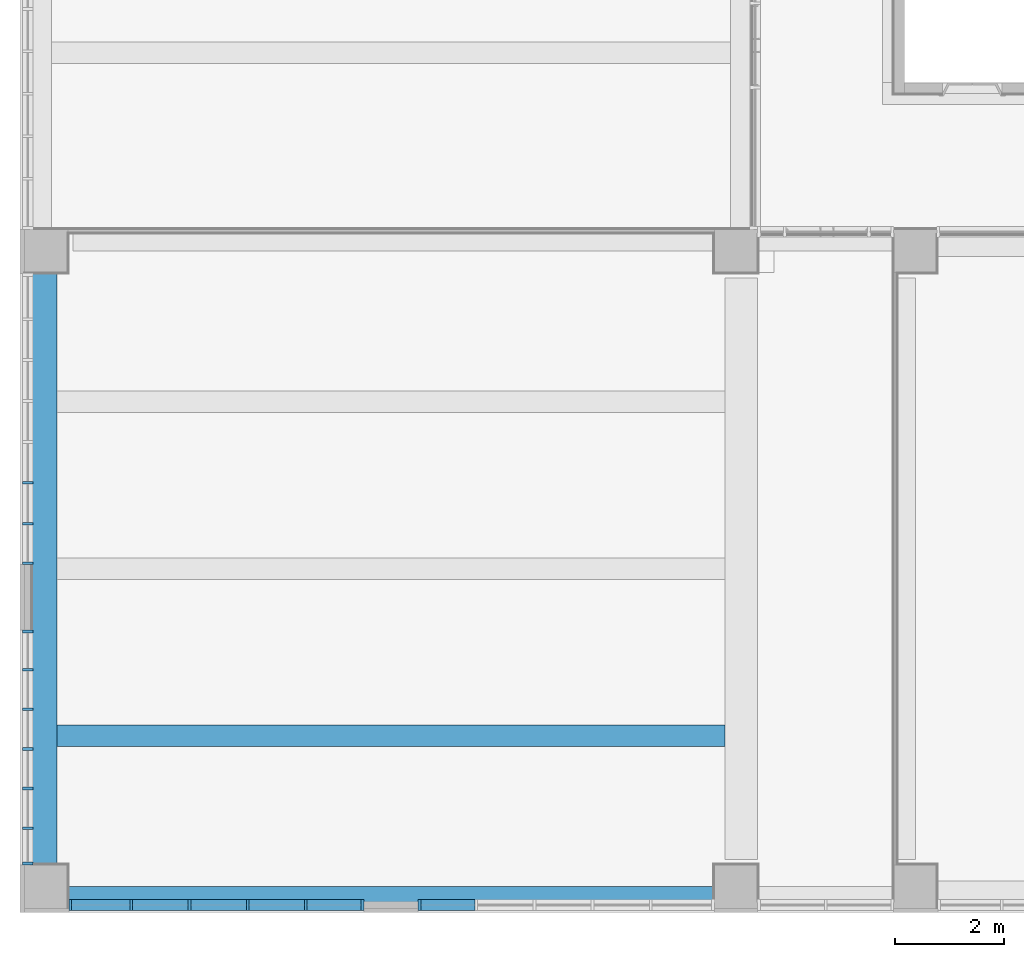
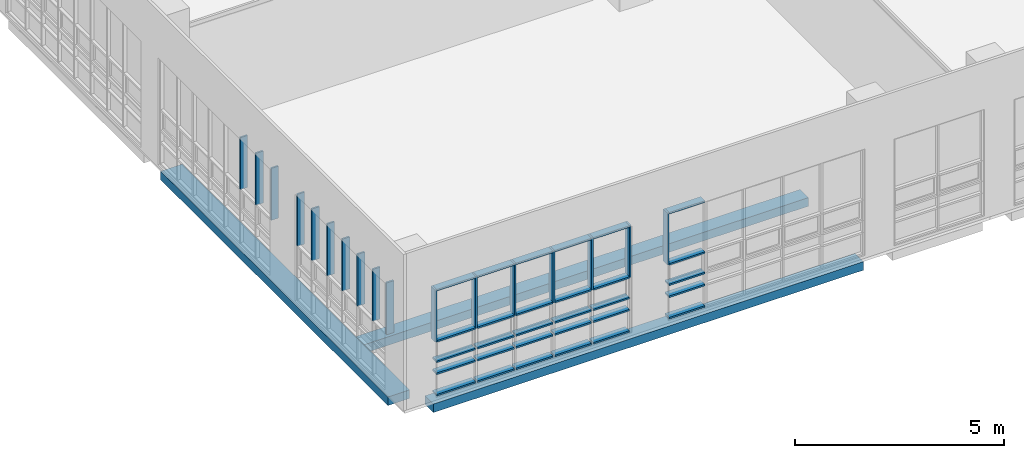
# One storey, part 2 of 74: 47 members, 3 beams, 4 elements without a shape of their own.
"""IFC2X3 building model written with IfcOpenShell, lengths in millimetres."""

from ifc_helpers import new_model, entity, si_unit, converted_unit, derived_unit, direction, frame, frame_2d, origin, origin_2d_with_axis, place, context, subcontext, project, spatial, rectangle, extrude, source, transform, mapped, material, type_object, type_shapes, element, aggregate, save


model = new_model("IFC2X3")

# Units and contexts
model_context = context("Model", 3, precision=0.01, world=origin(), true_north=direction((6.123031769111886e-17, 1.0)))
body_context = subcontext(model_context, "Body", "Model", "MODEL_VIEW")
ifc_project = project(units=[si_unit("LENGTHUNIT", "METRE", prefix="MILLI"), si_unit("AREAUNIT", "SQUARE_METRE"), si_unit("VOLUMEUNIT", "CUBIC_METRE"), converted_unit("PLANEANGLEUNIT", "DEGREE", entity("IfcRatioMeasure", 0.017453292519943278), si_unit("PLANEANGLEUNIT", "RADIAN"), dimensions=[0, 0, 0, 0, 0, 0, 0]), si_unit("MASSUNIT", "GRAM", prefix="KILO"), derived_unit("MASSDENSITYUNIT", [(si_unit("MASSUNIT", "GRAM", prefix="KILO"), 1), (si_unit("LENGTHUNIT", "METRE"), -3)]), derived_unit("MOMENTOFINERTIAUNIT", [(si_unit("LENGTHUNIT", "METRE"), 4)]), si_unit("TIMEUNIT", "SECOND"), si_unit("FREQUENCYUNIT", "HERTZ"), si_unit("THERMODYNAMICTEMPERATUREUNIT", "DEGREE_CELSIUS"), derived_unit("THERMALTRANSMITTANCEUNIT", [(si_unit("MASSUNIT", "GRAM", prefix="KILO"), 1), (si_unit("THERMODYNAMICTEMPERATUREUNIT", "KELVIN"), -1), (si_unit("TIMEUNIT", "SECOND"), -3)]), derived_unit("VOLUMETRICFLOWRATEUNIT", [(si_unit("LENGTHUNIT", "METRE"), 3), (si_unit("TIMEUNIT", "SECOND"), -1)]), derived_unit("MASSFLOWRATEUNIT", [(si_unit("MASSUNIT", "GRAM", prefix="KILO"), 1), (si_unit("TIMEUNIT", "SECOND"), -1)]), derived_unit("ROTATIONALFREQUENCYUNIT", [(si_unit("TIMEUNIT", "SECOND"), -1)]), si_unit("ELECTRICCURRENTUNIT", "AMPERE"), si_unit("ELECTRICVOLTAGEUNIT", "VOLT"), si_unit("POWERUNIT", "WATT"), si_unit("FORCEUNIT", "NEWTON", prefix="KILO"), si_unit("ILLUMINANCEUNIT", "LUX"), si_unit("LUMINOUSFLUXUNIT", "LUMEN"), si_unit("LUMINOUSINTENSITYUNIT", "CANDELA"), derived_unit("USERDEFINED", [(si_unit("MASSUNIT", "GRAM", prefix="KILO"), -1), (si_unit("LENGTHUNIT", "METRE"), -2), (si_unit("TIMEUNIT", "SECOND"), 3), (si_unit("LUMINOUSFLUXUNIT", "LUMEN"), 1)]), derived_unit("SOUNDPOWERUNIT", [(si_unit("MASSUNIT", "GRAM", prefix="KILO"), 1), (si_unit("LENGTHUNIT", "METRE"), 2), (si_unit("TIMEUNIT", "SECOND"), -3)]), derived_unit("SOUNDPRESSUREUNIT", [(si_unit("MASSUNIT", "GRAM", prefix="KILO"), 1), (si_unit("LENGTHUNIT", "METRE"), -1), (si_unit("TIMEUNIT", "SECOND"), -2)]), derived_unit("LINEARVELOCITYUNIT", [(si_unit("LENGTHUNIT", "METRE"), 1), (si_unit("TIMEUNIT", "SECOND"), -1)]), si_unit("PRESSUREUNIT", "PASCAL"), derived_unit("USERDEFINED", [(si_unit("LENGTHUNIT", "METRE"), -2), (si_unit("MASSUNIT", "GRAM", prefix="KILO"), 1), (si_unit("TIMEUNIT", "SECOND"), -2)]), derived_unit("LINEARFORCEUNIT", [(si_unit("MASSUNIT", "GRAM", prefix="KILO"), 1), (si_unit("LENGTHUNIT", "METRE"), 1), (si_unit("TIMEUNIT", "SECOND"), -2), (si_unit("LENGTHUNIT", "METRE"), -1)]), derived_unit("PLANARFORCEUNIT", [(si_unit("MASSUNIT", "GRAM", prefix="KILO"), 1), (si_unit("LENGTHUNIT", "METRE"), 1), (si_unit("TIMEUNIT", "SECOND"), -2), (si_unit("LENGTHUNIT", "METRE"), -2)])], contexts=[model_context])

# Site, building, storey
site_placement = place(None, frame((-14167.972527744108, -657.2125860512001, 0.0)))
site = spatial("IfcSite", under=ifc_project, at=site_placement, Name="Default", CompositionType="ELEMENT")
building_placement = place(site_placement, origin())
building = spatial("IfcBuilding", under=site, at=building_placement, Name="Sample Building", CompositionType="ELEMENT")
storey_placement = place(building_placement, frame((0.0, 0.0, 4800.0)))
storey = spatial("IfcBuildingStorey", under=building, at=storey_placement, Name="지상 2층", CompositionType="ELEMENT", Elevation=4800.000000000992)

# Curtain wall, member
curtain_wall_type = type_object("IfcCurtainWallType", Name="커튼월:CW112-스테인리스 스틸 커튼월", PredefinedType="NOTDEFINED")
curtain_wall_1_placement = place(storey_placement, frame((0.0, 0.0, -4800.0)))
curtain_wall_1 = element("IfcCurtainWall", 1, at=curtain_wall_1_placement, inside=storey, type_object=curtain_wall_type, Name="커튼월:CW112-스테인리스 스틸 커튼월", ObjectType="커튼월:CW112-스테인리스 스틸 커튼월")
ifc_material_1 = material(Name="<Unnamed>")
member_type_1 = type_object("IfcMemberType", Name="직사각형 멀리언:CW200-직사각형 멀리언 50x200mm", PredefinedType="MULLION", material=ifc_material_1)
shared_shape_1 = source(origin(), body_context, "Body", "SweptSolid", [
    extrude(rectangle(XDim=200.0, YDim=50.0, at=origin_2d_with_axis()), frame((-25.0, 0.0, -1520.0), z_axis=(0.0, 0.0, 1.0), x_axis=(0.0, -1.0, 0.0)), (0.0, 0.0, 1.0), 1520.0000000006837),
])
type_shapes(member_type_1, [shared_shape_1])
member_1_placement = place(curtain_wall_1_placement, frame((14885.972454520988, 619.7122951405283, 8000.0), z_axis=(0.0, 0.0, 1.0), x_axis=(-1.0, 0.0, 0.0)))
member_1 = element("IfcMember", 2, at=member_1_placement, type_object=member_type_1, material=ifc_material_1, Name="직사각형 멀리언:CW200-직사각형 멀리언 50x200mm", ObjectType="직사각형 멀리언:CW200-직사각형 멀리언 50x200mm", context=body_context, shape_type="MappedRepresentation", body=[
    mapped(shared_shape_1, transform((0.0, 0.0, 0.0), scale=1.0)),
])

curtain_wall_2_placement = place(storey_placement, frame((0.0, 0.0, -4800.0)))
curtain_wall_2 = element("IfcCurtainWall", 3, at=curtain_wall_2_placement, inside=storey, type_object=curtain_wall_type, Name="커튼월:CW112-스테인리스 스틸 커튼월", ObjectType="커튼월:CW112-스테인리스 스틸 커튼월")
member_2_placement = place(curtain_wall_2_placement, frame((21317.857532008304, 619.7122951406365, 8000.0), z_axis=(0.0, 0.0, 1.0), x_axis=(-1.0, 0.0, 0.0)))
member_2 = element("IfcMember", 4, at=member_2_placement, type_object=member_type_1, material=ifc_material_1, Name="직사각형 멀리언:CW200-직사각형 멀리언 50x200mm", ObjectType="직사각형 멀리언:CW200-직사각형 멀리언 50x200mm", context=body_context, shape_type="MappedRepresentation", body=[
    mapped(shared_shape_1, transform((0.0, 0.0, 0.0), scale=1.0)),
])

curtain_wall_3_placement = place(storey_placement, frame((0.0, 0.0, -4800.0)))
curtain_wall_3 = element("IfcCurtainWall", 5, at=curtain_wall_3_placement, inside=storey, type_object=curtain_wall_type, Name="커튼월:CW112-스테인리스 스틸 커튼월", ObjectType="커튼월:CW112-스테인리스 스틸 커튼월")
member_type_2 = type_object("IfcMemberType", Name="직사각형 멀리언:CW200-직사각형 멀리언 50x200mm", PredefinedType="MULLION", material=ifc_material_1)
shared_shape_2 = source(origin(), body_context, "Body", "SweptSolid", [
    extrude(rectangle(XDim=200.0, YDim=50.0, at=origin_2d_with_axis()), frame((-25.0, 0.0, -1520.0), z_axis=(0.0, 0.0, 1.0), x_axis=(0.0, -1.0, 0.0)), (0.0, 0.0, 1.0), 1520.0000000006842),
])
type_shapes(member_type_2, [shared_shape_2])
member_3_placement = place(curtain_wall_3_placement, frame((14130.47257087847, 6882.21227524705, 6480.0), z_axis=(0.0, 0.0, -1.0), x_axis=(0.0, -1.0, 0.0)))
member_3 = element("IfcMember", 6, at=member_3_placement, type_object=member_type_2, material=ifc_material_1, Name="직사각형 멀리언:CW200-직사각형 멀리언 50x200mm", ObjectType="직사각형 멀리언:CW200-직사각형 멀리언 50x200mm", context=body_context, shape_type="MappedRepresentation", body=[
    mapped(shared_shape_2, transform((0.0, 0.0, 0.0), scale=1.0)),
])

# Member
member_4_placement = place(curtain_wall_1_placement, frame((20317.99848593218, 619.7122951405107, 6480.0), z_axis=(0.0, 0.0, -1.0), x_axis=(1.0, 0.0, 0.0)))
member_4 = element("IfcMember", 7, at=member_4_placement, type_object=member_type_2, material=ifc_material_1, Name="직사각형 멀리언:CW200-직사각형 멀리언 50x200mm", ObjectType="직사각형 멀리언:CW200-직사각형 멀리언 50x200mm", context=body_context, shape_type="MappedRepresentation", body=[
    mapped(shared_shape_2, transform((0.0, 0.0, 0.0), scale=1.0)),
])

member_type_3 = type_object("IfcMemberType", Name="직사각형 멀리언:CW200-직사각형 멀리언 50x200mm", PredefinedType="MULLION", material=ifc_material_1)
shared_shape_3 = source(origin(), body_context, "Body", "SweptSolid", [
    extrude(rectangle(XDim=200.0, YDim=50.0, at=origin_2d_with_axis()), frame((0.0, 0.0, -1520.0), z_axis=(0.0, 0.0, 1.0), x_axis=(0.0, -1.0, 0.0)), (0.0, 0.0, 1.0), 1520.0000000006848),
])
type_shapes(member_type_3, [shared_shape_3])
member_5_placement = place(curtain_wall_3_placement, frame((14130.472570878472, 8389.35513238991, 6480.0), z_axis=(0.0, 0.0, -1.0), x_axis=(0.0, -1.0, 0.0)))
member_5 = element("IfcMember", 8, at=member_5_placement, type_object=member_type_3, material=ifc_material_1, Name="직사각형 멀리언:CW200-직사각형 멀리언 50x200mm", ObjectType="직사각형 멀리언:CW200-직사각형 멀리언 50x200mm", context=body_context, shape_type="MappedRepresentation", body=[
    mapped(shared_shape_3, transform((0.0, 0.0, 0.0), scale=1.0)),
])

member_6_placement = place(curtain_wall_3_placement, frame((14130.472570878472, 7635.783703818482, 6480.0), z_axis=(0.0, 0.0, -1.0), x_axis=(0.0, -1.0, 0.0)))
member_6 = element("IfcMember", 9, at=member_6_placement, type_object=member_type_3, material=ifc_material_1, Name="직사각형 멀리언:CW200-직사각형 멀리언 50x200mm", ObjectType="직사각형 멀리언:CW200-직사각형 멀리언 50x200mm", context=body_context, shape_type="MappedRepresentation", body=[
    mapped(shared_shape_3, transform((0.0, 0.0, 0.0), scale=1.0)),
])

aggregate(curtain_wall_3, [member_3, member_5, member_6])

member_7_placement = place(curtain_wall_1_placement, frame((16037.998485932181, 619.7122951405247, 6480.0), z_axis=(0.0, 0.0, -1.0), x_axis=(1.0, 0.0, 0.0)))
member_7 = element("IfcMember", 10, at=member_7_placement, type_object=member_type_3, material=ifc_material_1, Name="직사각형 멀리언:CW200-직사각형 멀리언 50x200mm", ObjectType="직사각형 멀리언:CW200-직사각형 멀리언 50x200mm", context=body_context, shape_type="MappedRepresentation", body=[
    mapped(shared_shape_3, transform((0.0, 0.0, 0.0), scale=1.0)),
])

member_8_placement = place(curtain_wall_1_placement, frame((17107.99848593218, 619.7122951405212, 6480.0), z_axis=(0.0, 0.0, -1.0), x_axis=(1.0, 0.0, 0.0)))
member_8 = element("IfcMember", 11, at=member_8_placement, type_object=member_type_3, material=ifc_material_1, Name="직사각형 멀리언:CW200-직사각형 멀리언 50x200mm", ObjectType="직사각형 멀리언:CW200-직사각형 멀리언 50x200mm", context=body_context, shape_type="MappedRepresentation", body=[
    mapped(shared_shape_3, transform((0.0, 0.0, 0.0), scale=1.0)),
])

member_9_placement = place(curtain_wall_1_placement, frame((18177.99848593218, 619.7122951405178, 6480.0), z_axis=(0.0, 0.0, -1.0), x_axis=(1.0, 0.0, 0.0)))
member_9 = element("IfcMember", 12, at=member_9_placement, type_object=member_type_3, material=ifc_material_1, Name="직사각형 멀리언:CW200-직사각형 멀리언 50x200mm", ObjectType="직사각형 멀리언:CW200-직사각형 멀리언 50x200mm", context=body_context, shape_type="MappedRepresentation", body=[
    mapped(shared_shape_3, transform((0.0, 0.0, 0.0), scale=1.0)),
])

member_10_placement = place(curtain_wall_1_placement, frame((19247.99848593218, 619.7122951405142, 6480.0), z_axis=(0.0, 0.0, -1.0), x_axis=(1.0, 0.0, 0.0)))
member_10 = element("IfcMember", 13, at=member_10_placement, type_object=member_type_3, material=ifc_material_1, Name="직사각형 멀리언:CW200-직사각형 멀리언 50x200mm", ObjectType="직사각형 멀리언:CW200-직사각형 멀리언 50x200mm", context=body_context, shape_type="MappedRepresentation", body=[
    mapped(shared_shape_3, transform((0.0, 0.0, 0.0), scale=1.0)),
])

# Curtain wall, members
curtain_wall_4_placement = place(storey_placement, frame((0.0, 0.0, -4800.0)))
curtain_wall_4 = element("IfcCurtainWall", 14, at=curtain_wall_4_placement, inside=storey, type_object=curtain_wall_type, Name="커튼월:CW112-스테인리스 스틸 커튼월", ObjectType="커튼월:CW112-스테인리스 스틸 커튼월")
member_type_4 = type_object("IfcMemberType", Name="직사각형 멀리언:CW200-직사각형 멀리언 50x200mm", PredefinedType="MULLION", material=ifc_material_1)
shared_shape_4 = source(origin(), body_context, "Body", "SweptSolid", [
    extrude(rectangle(XDim=200.0, YDim=50.0, at=origin_2d_with_axis()), frame((-25.0, 0.0, -1520.0), z_axis=(0.0, 0.0, 1.0), x_axis=(0.0, -1.0, 0.0)), (0.0, 0.0, 1.0), 1520.000000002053),
])
type_shapes(member_type_4, [shared_shape_4])
member_11_placement = place(curtain_wall_4_placement, frame((14129.839654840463, 5679.474664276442, 8000.0), z_axis=(0.0, 0.0, 1.0), x_axis=(0.0, 1.0, 0.0)))
member_11 = element("IfcMember", 15, at=member_11_placement, type_object=member_type_4, material=ifc_material_1, Name="직사각형 멀리언:CW200-직사각형 멀리언 50x200mm", ObjectType="직사각형 멀리언:CW200-직사각형 멀리언 50x200mm", context=body_context, shape_type="MappedRepresentation", body=[
    mapped(shared_shape_4, transform((0.0, 0.0, 0.0), scale=1.0)),
])
member_type_5 = type_object("IfcMemberType", Name="직사각형 멀리언:CW200-직사각형 멀리언 50x200mm", PredefinedType="MULLION", material=ifc_material_1)
shared_shape_5 = source(origin(), body_context, "Body", "SweptSolid", [
    extrude(rectangle(XDim=200.0, YDim=50.0, at=origin_2d_with_axis()), frame((-25.0, 0.0, -1520.0), z_axis=(0.0, 0.0, 1.0), x_axis=(0.0, -1.0, 0.0)), (0.0, 0.0, 1.0), 1520.000000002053),
])
type_shapes(member_type_5, [shared_shape_5])
member_12_placement = place(curtain_wall_4_placement, frame((14129.839654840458, 1356.728296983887, 6480.0), z_axis=(0.0, 0.0, -1.0), x_axis=(0.0, -1.0, 0.0)))
member_12 = element("IfcMember", 16, at=member_12_placement, type_object=member_type_5, material=ifc_material_1, Name="직사각형 멀리언:CW200-직사각형 멀리언 50x200mm", ObjectType="직사각형 멀리언:CW200-직사각형 멀리언 50x200mm", context=body_context, shape_type="MappedRepresentation", body=[
    mapped(shared_shape_5, transform((0.0, 0.0, 0.0), scale=1.0)),
])
member_type_6 = type_object("IfcMemberType", Name="직사각형 멀리언:CW200-직사각형 멀리언 50x200mm", PredefinedType="MULLION", material=ifc_material_1)
shared_shape_6 = source(origin(), body_context, "Body", "SweptSolid", [
    extrude(rectangle(XDim=200.0, YDim=50.0, at=origin_2d_with_axis()), frame((0.0, 0.0, -1520.0), z_axis=(0.0, 0.0, 1.0), x_axis=(0.0, -1.0, 0.0)), (0.0, 0.0, 1.0), 1520.000000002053),
])
type_shapes(member_type_6, [shared_shape_6])
member_13_placement = place(curtain_wall_4_placement, frame((14129.839654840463, 4950.307997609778, 6480.0), z_axis=(0.0, 0.0, -1.0), x_axis=(0.0, -1.0, 0.0)))
member_13 = element("IfcMember", 17, at=member_13_placement, type_object=member_type_6, material=ifc_material_1, Name="직사각형 멀리언:CW200-직사각형 멀리언 50x200mm", ObjectType="직사각형 멀리언:CW200-직사각형 멀리언 50x200mm", context=body_context, shape_type="MappedRepresentation", body=[
    mapped(shared_shape_6, transform((0.0, 0.0, 0.0), scale=1.0)),
])
member_14_placement = place(curtain_wall_4_placement, frame((14129.839654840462, 4221.141330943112, 6480.0), z_axis=(0.0, 0.0, -1.0), x_axis=(0.0, -1.0, 0.0)))
member_14 = element("IfcMember", 18, at=member_14_placement, type_object=member_type_6, material=ifc_material_1, Name="직사각형 멀리언:CW200-직사각형 멀리언 50x200mm", ObjectType="직사각형 멀리언:CW200-직사각형 멀리언 50x200mm", context=body_context, shape_type="MappedRepresentation", body=[
    mapped(shared_shape_6, transform((0.0, 0.0, 0.0), scale=1.0)),
])
member_15_placement = place(curtain_wall_4_placement, frame((14129.83965484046, 3491.974664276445, 6480.0), z_axis=(0.0, 0.0, -1.0), x_axis=(0.0, -1.0, 0.0)))
member_15 = element("IfcMember", 19, at=member_15_placement, type_object=member_type_6, material=ifc_material_1, Name="직사각형 멀리언:CW200-직사각형 멀리언 50x200mm", ObjectType="직사각형 멀리언:CW200-직사각형 멀리언 50x200mm", context=body_context, shape_type="MappedRepresentation", body=[
    mapped(shared_shape_6, transform((0.0, 0.0, 0.0), scale=1.0)),
])
member_16_placement = place(curtain_wall_4_placement, frame((14129.83965484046, 2762.8079976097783, 6480.0), z_axis=(0.0, 0.0, -1.0), x_axis=(0.0, -1.0, 0.0)))
member_16 = element("IfcMember", 20, at=member_16_placement, type_object=member_type_6, material=ifc_material_1, Name="직사각형 멀리언:CW200-직사각형 멀리언 50x200mm", ObjectType="직사각형 멀리언:CW200-직사각형 멀리언 50x200mm", context=body_context, shape_type="MappedRepresentation", body=[
    mapped(shared_shape_6, transform((0.0, 0.0, 0.0), scale=1.0)),
])
member_17_placement = place(curtain_wall_4_placement, frame((14129.839654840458, 2033.6413309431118, 6480.0), z_axis=(0.0, 0.0, -1.0), x_axis=(0.0, -1.0, 0.0)))
member_17 = element("IfcMember", 21, at=member_17_placement, type_object=member_type_6, material=ifc_material_1, Name="직사각형 멀리언:CW200-직사각형 멀리언 50x200mm", ObjectType="직사각형 멀리언:CW200-직사각형 멀리언 50x200mm", context=body_context, shape_type="MappedRepresentation", body=[
    mapped(shared_shape_6, transform((0.0, 0.0, 0.0), scale=1.0)),
])
aggregate(curtain_wall_4, [member_11, member_12, member_13, member_14, member_15, member_16, member_17])

# Member
member_type_7 = type_object("IfcMemberType", Name="직사각형 멀리언:CW200-직사각형 멀리언 50x200mm", PredefinedType="MULLION", material=ifc_material_1)
shared_shape_7 = source(origin(), body_context, "Body", "SweptSolid", [
    extrude(rectangle(XDim=200.0, YDim=50.0, at=origin_2d_with_axis()), frame((-25.0, 0.0, -995.0), z_axis=(0.0, 0.0, 1.0), x_axis=(0.0, -1.0, 0.0)), (0.0, 0.0, 1.0), 995.0000000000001),
])
type_shapes(member_type_7, [shared_shape_7])
member_18_placement = place(curtain_wall_1_placement, frame((20267.998485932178, 619.7122951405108, 8000.0), z_axis=(1.0, 0.0, 0.0), x_axis=(0.0, 0.0, 1.0)))
member_18 = element("IfcMember", 22, at=member_18_placement, type_object=member_type_7, material=ifc_material_1, Name="직사각형 멀리언:CW200-직사각형 멀리언 50x200mm", ObjectType="직사각형 멀리언:CW200-직사각형 멀리언 50x200mm", context=body_context, shape_type="MappedRepresentation", body=[
    mapped(shared_shape_7, transform((0.0, 0.0, 0.0), scale=1.0)),
])

member_19_placement = place(curtain_wall_2_placement, frame((22362.85753200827, 619.7122951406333, 8000.0), z_axis=(1.0, 0.0, 0.0), x_axis=(0.0, 0.0, 1.0)))
member_19 = element("IfcMember", 23, at=member_19_placement, type_object=member_type_7, material=ifc_material_1, Name="직사각형 멀리언:CW200-직사각형 멀리언 50x200mm", ObjectType="직사각형 멀리언:CW200-직사각형 멀리언 50x200mm", context=body_context, shape_type="MappedRepresentation", body=[
    mapped(shared_shape_7, transform((0.0, 0.0, 0.0), scale=1.0)),
])

member_type_8 = type_object("IfcMemberType", Name="직사각형 멀리언:CW200-직사각형 멀리언 50x200mm", PredefinedType="MULLION", material=ifc_material_1)
shared_shape_8 = source(origin(), body_context, "Body", "SweptSolid", [
    extrude(rectangle(XDim=200.0, YDim=50.0, at=origin_2d_with_axis()), frame((-25.0, 0.0, -1077.0260314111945), z_axis=(0.0, 0.0, 1.0), x_axis=(0.0, -1.0, 0.0)), (0.0, 0.0, 1.0), 1077.0260314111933),
])
type_shapes(member_type_8, [shared_shape_8])
member_20_placement = place(curtain_wall_1_placement, frame((14935.972454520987, 619.7122951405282, 4880.0), z_axis=(-1.0, 0.0, 0.0), x_axis=(0.0, 0.0, -1.0)))
member_20 = element("IfcMember", 24, at=member_20_placement, type_object=member_type_8, material=ifc_material_1, Name="직사각형 멀리언:CW200-직사각형 멀리언 50x200mm", ObjectType="직사각형 멀리언:CW200-직사각형 멀리언 50x200mm", context=body_context, shape_type="MappedRepresentation", body=[
    mapped(shared_shape_8, transform((0.0, 0.0, 0.0), scale=1.0)),
])

member_type_9 = type_object("IfcMemberType", Name="직사각형 멀리언:CW200-직사각형 멀리언 50x200mm", PredefinedType="MULLION", material=ifc_material_1)
shared_shape_9 = source(origin(), body_context, "Body", "SweptSolid", [
    extrude(rectangle(XDim=200.0, YDim=50.0, at=origin_2d_with_axis()), frame((-25.0, 0.0, -1077.0260314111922), z_axis=(0.0, 0.0, 1.0), x_axis=(0.0, -1.0, 0.0)), (0.0, 0.0, 1.0), 1077.0260314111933),
])
type_shapes(member_type_9, [shared_shape_9])
member_21_placement = place(curtain_wall_1_placement, frame((16012.998485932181, 619.7122951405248, 8000.0), z_axis=(1.0, 0.0, 0.0), x_axis=(0.0, 0.0, 1.0)))
member_21 = element("IfcMember", 25, at=member_21_placement, type_object=member_type_9, material=ifc_material_1, Name="직사각형 멀리언:CW200-직사각형 멀리언 50x200mm", ObjectType="직사각형 멀리언:CW200-직사각형 멀리언 50x200mm", context=body_context, shape_type="MappedRepresentation", body=[
    mapped(shared_shape_9, transform((0.0, 0.0, 0.0), scale=1.0)),
])

member_type_10 = type_object("IfcMemberType", Name="직사각형 멀리언:CW200-직사각형 멀리언 50x200mm", PredefinedType="MULLION", material=ifc_material_1)
shared_shape_10 = source(origin(), body_context, "Body", "SweptSolid", [
    extrude(rectangle(XDim=200.0, YDim=50.0, at=origin_2d_with_axis()), frame((-25.0, 0.0, -1020.0), z_axis=(0.0, 0.0, 1.0), x_axis=(0.0, -1.0, 0.0)), (0.0, 0.0, 1.0), 1020.000000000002),
])
type_shapes(member_type_10, [shared_shape_10])
member_22_placement = place(curtain_wall_1_placement, frame((16062.998485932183, 619.7122951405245, 4880.0), z_axis=(-1.0, 0.0, 0.0), x_axis=(0.0, 0.0, -1.0)))
member_22 = element("IfcMember", 26, at=member_22_placement, type_object=member_type_10, material=ifc_material_1, Name="직사각형 멀리언:CW200-직사각형 멀리언 50x200mm", ObjectType="직사각형 멀리언:CW200-직사각형 멀리언 50x200mm", context=body_context, shape_type="MappedRepresentation", body=[
    mapped(shared_shape_10, transform((0.0, 0.0, 0.0), scale=1.0)),
])

member_23_placement = place(curtain_wall_1_placement, frame((17132.998485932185, 619.7122951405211, 4880.0), z_axis=(-1.0, 0.0, 0.0), x_axis=(0.0, 0.0, -1.0)))
member_23 = element("IfcMember", 27, at=member_23_placement, type_object=member_type_10, material=ifc_material_1, Name="직사각형 멀리언:CW200-직사각형 멀리언 50x200mm", ObjectType="직사각형 멀리언:CW200-직사각형 멀리언 50x200mm", context=body_context, shape_type="MappedRepresentation", body=[
    mapped(shared_shape_10, transform((0.0, 0.0, 0.0), scale=1.0)),
])

member_24_placement = place(curtain_wall_1_placement, frame((18202.99848593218, 619.7122951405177, 4880.0), z_axis=(-1.0, 0.0, 0.0), x_axis=(0.0, 0.0, -1.0)))
member_24 = element("IfcMember", 28, at=member_24_placement, type_object=member_type_10, material=ifc_material_1, Name="직사각형 멀리언:CW200-직사각형 멀리언 50x200mm", ObjectType="직사각형 멀리언:CW200-직사각형 멀리언 50x200mm", context=body_context, shape_type="MappedRepresentation", body=[
    mapped(shared_shape_10, transform((0.0, 0.0, 0.0), scale=1.0)),
])

member_type_11 = type_object("IfcMemberType", Name="직사각형 멀리언:CW200-직사각형 멀리언 50x200mm", PredefinedType="MULLION", material=ifc_material_1)
shared_shape_11 = source(origin(), body_context, "Body", "SweptSolid", [
    extrude(rectangle(XDim=200.0, YDim=50.0, at=origin_2d_with_axis()), frame((-25.0, 0.0, -1020.0), z_axis=(0.0, 0.0, 1.0), x_axis=(0.0, -1.0, 0.0)), (0.0, 0.0, 1.0), 1020.000000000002),
])
type_shapes(member_type_11, [shared_shape_11])
member_25_placement = place(curtain_wall_1_placement, frame((17082.99848593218, 619.7122951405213, 8000.0), z_axis=(1.0, 0.0, 0.0), x_axis=(0.0, 0.0, 1.0)))
member_25 = element("IfcMember", 29, at=member_25_placement, type_object=member_type_11, material=ifc_material_1, Name="직사각형 멀리언:CW200-직사각형 멀리언 50x200mm", ObjectType="직사각형 멀리언:CW200-직사각형 멀리언 50x200mm", context=body_context, shape_type="MappedRepresentation", body=[
    mapped(shared_shape_11, transform((0.0, 0.0, 0.0), scale=1.0)),
])

member_26_placement = place(curtain_wall_1_placement, frame((18152.99848593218, 619.7122951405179, 8000.0), z_axis=(1.0, 0.0, 0.0), x_axis=(0.0, 0.0, 1.0)))
member_26 = element("IfcMember", 30, at=member_26_placement, type_object=member_type_11, material=ifc_material_1, Name="직사각형 멀리언:CW200-직사각형 멀리언 50x200mm", ObjectType="직사각형 멀리언:CW200-직사각형 멀리언 50x200mm", context=body_context, shape_type="MappedRepresentation", body=[
    mapped(shared_shape_11, transform((0.0, 0.0, 0.0), scale=1.0)),
])

member_27_placement = place(curtain_wall_1_placement, frame((19222.99848593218, 619.7122951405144, 8000.0), z_axis=(1.0, 0.0, 0.0), x_axis=(0.0, 0.0, 1.0)))
member_27 = element("IfcMember", 31, at=member_27_placement, type_object=member_type_11, material=ifc_material_1, Name="직사각형 멀리언:CW200-직사각형 멀리언 50x200mm", ObjectType="직사각형 멀리언:CW200-직사각형 멀리언 50x200mm", context=body_context, shape_type="MappedRepresentation", body=[
    mapped(shared_shape_11, transform((0.0, 0.0, 0.0), scale=1.0)),
])

member_type_12 = type_object("IfcMemberType", Name="직사각형 멀리언:CW200-직사각형 멀리언 50x200mm", PredefinedType="MULLION", material=ifc_material_1)
shared_shape_12 = source(origin(), body_context, "Body", "SweptSolid", [
    extrude(rectangle(XDim=200.0, YDim=50.0, at=origin_2d_with_axis()), frame((-25.0, 0.0, -995.0), z_axis=(0.0, 0.0, 1.0), x_axis=(0.0, -1.0, 0.0)), (0.0, 0.0, 1.0), 995.0000000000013),
])
type_shapes(member_type_12, [shared_shape_12])
member_28_placement = place(curtain_wall_1_placement, frame((19272.99848593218, 619.7122951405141, 4880.0), z_axis=(-1.0, 0.0, 0.0), x_axis=(0.0, 0.0, -1.0)))
member_28 = element("IfcMember", 32, at=member_28_placement, type_object=member_type_12, material=ifc_material_1, Name="직사각형 멀리언:CW200-직사각형 멀리언 50x200mm", ObjectType="직사각형 멀리언:CW200-직사각형 멀리언 50x200mm", context=body_context, shape_type="MappedRepresentation", body=[
    mapped(shared_shape_12, transform((0.0, 0.0, 0.0), scale=1.0)),
])

member_29_placement = place(curtain_wall_2_placement, frame((21367.857532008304, 619.7122951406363, 4880.0), z_axis=(-1.0, 0.0, 0.0), x_axis=(0.0, 0.0, -1.0)))
member_29 = element("IfcMember", 33, at=member_29_placement, type_object=member_type_12, material=ifc_material_1, Name="직사각형 멀리언:CW200-직사각형 멀리언 50x200mm", ObjectType="직사각형 멀리언:CW200-직사각형 멀리언 50x200mm", context=body_context, shape_type="MappedRepresentation", body=[
    mapped(shared_shape_12, transform((0.0, 0.0, 0.0), scale=1.0)),
])

member_type_13 = type_object("IfcMemberType", Name="직사각형 멀리언:CW200-직사각형 멀리언 50x200mm", PredefinedType="MULLION", material=ifc_material_1)
shared_shape_13 = source(origin(), body_context, "Body", "SweptSolid", [
    extrude(rectangle(XDim=200.0, YDim=50.0, at=origin_2d_with_axis()), frame((0.0, 0.0, -1077.0260314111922), z_axis=(0.0, 0.0, 1.0), x_axis=(0.0, -1.0, 0.0)), (0.0, 0.0, 1.0), 1077.0260314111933),
])
type_shapes(member_type_13, [shared_shape_13])
member_30_placement = place(curtain_wall_1_placement, frame((16012.998485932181, 619.7122951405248, 6480.0), z_axis=(1.0, 0.0, 0.0), x_axis=(0.0, 0.0, 1.0)))
member_30 = element("IfcMember", 34, at=member_30_placement, type_object=member_type_13, material=ifc_material_1, Name="직사각형 멀리언:CW200-직사각형 멀리언 50x200mm", ObjectType="직사각형 멀리언:CW200-직사각형 멀리언 50x200mm", context=body_context, shape_type="MappedRepresentation", body=[
    mapped(shared_shape_13, transform((0.0, 0.0, 0.0), scale=1.0)),
])

member_31_placement = place(curtain_wall_1_placement, frame((16012.998485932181, 619.7122951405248, 5880.0), z_axis=(1.0, 0.0, 0.0), x_axis=(0.0, 0.0, 1.0)))
member_31 = element("IfcMember", 35, at=member_31_placement, type_object=member_type_13, material=ifc_material_1, Name="직사각형 멀리언:CW200-직사각형 멀리언 50x200mm", ObjectType="직사각형 멀리언:CW200-직사각형 멀리언 50x200mm", context=body_context, shape_type="MappedRepresentation", body=[
    mapped(shared_shape_13, transform((0.0, 0.0, 0.0), scale=1.0)),
])

member_32_placement = place(curtain_wall_1_placement, frame((16012.998485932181, 619.7122951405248, 5530.0), z_axis=(1.0, 0.0, 0.0), x_axis=(0.0, 0.0, 1.0)))
member_32 = element("IfcMember", 36, at=member_32_placement, type_object=member_type_13, material=ifc_material_1, Name="직사각형 멀리언:CW200-직사각형 멀리언 50x200mm", ObjectType="직사각형 멀리언:CW200-직사각형 멀리언 50x200mm", context=body_context, shape_type="MappedRepresentation", body=[
    mapped(shared_shape_13, transform((0.0, 0.0, 0.0), scale=1.0)),
])

member_type_14 = type_object("IfcMemberType", Name="직사각형 멀리언:CW200-직사각형 멀리언 50x200mm", PredefinedType="MULLION", material=ifc_material_1)
shared_shape_14 = source(origin(), body_context, "Body", "SweptSolid", [
    extrude(rectangle(XDim=200.0, YDim=50.0, at=origin_2d_with_axis()), frame((0.0, 0.0, -1020.0), z_axis=(0.0, 0.0, 1.0), x_axis=(0.0, -1.0, 0.0)), (0.0, 0.0, 1.0), 1020.000000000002),
])
type_shapes(member_type_14, [shared_shape_14])
member_33_placement = place(curtain_wall_1_placement, frame((17082.99848593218, 619.7122951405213, 6480.0), z_axis=(1.0, 0.0, 0.0), x_axis=(0.0, 0.0, 1.0)))
member_33 = element("IfcMember", 37, at=member_33_placement, type_object=member_type_14, material=ifc_material_1, Name="직사각형 멀리언:CW200-직사각형 멀리언 50x200mm", ObjectType="직사각형 멀리언:CW200-직사각형 멀리언 50x200mm", context=body_context, shape_type="MappedRepresentation", body=[
    mapped(shared_shape_14, transform((0.0, 0.0, 0.0), scale=1.0)),
])

member_34_placement = place(curtain_wall_1_placement, frame((18152.99848593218, 619.7122951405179, 6480.0), z_axis=(1.0, 0.0, 0.0), x_axis=(0.0, 0.0, 1.0)))
member_34 = element("IfcMember", 38, at=member_34_placement, type_object=member_type_14, material=ifc_material_1, Name="직사각형 멀리언:CW200-직사각형 멀리언 50x200mm", ObjectType="직사각형 멀리언:CW200-직사각형 멀리언 50x200mm", context=body_context, shape_type="MappedRepresentation", body=[
    mapped(shared_shape_14, transform((0.0, 0.0, 0.0), scale=1.0)),
])

member_35_placement = place(curtain_wall_1_placement, frame((19222.99848593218, 619.7122951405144, 6480.0), z_axis=(1.0, 0.0, 0.0), x_axis=(0.0, 0.0, 1.0)))
member_35 = element("IfcMember", 39, at=member_35_placement, type_object=member_type_14, material=ifc_material_1, Name="직사각형 멀리언:CW200-직사각형 멀리언 50x200mm", ObjectType="직사각형 멀리언:CW200-직사각형 멀리언 50x200mm", context=body_context, shape_type="MappedRepresentation", body=[
    mapped(shared_shape_14, transform((0.0, 0.0, 0.0), scale=1.0)),
])

member_36_placement = place(curtain_wall_1_placement, frame((17082.99848593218, 619.7122951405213, 5880.0), z_axis=(1.0, 0.0, 0.0), x_axis=(0.0, 0.0, 1.0)))
member_36 = element("IfcMember", 40, at=member_36_placement, type_object=member_type_14, material=ifc_material_1, Name="직사각형 멀리언:CW200-직사각형 멀리언 50x200mm", ObjectType="직사각형 멀리언:CW200-직사각형 멀리언 50x200mm", context=body_context, shape_type="MappedRepresentation", body=[
    mapped(shared_shape_14, transform((0.0, 0.0, 0.0), scale=1.0)),
])

member_37_placement = place(curtain_wall_1_placement, frame((18152.99848593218, 619.7122951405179, 5880.0), z_axis=(1.0, 0.0, 0.0), x_axis=(0.0, 0.0, 1.0)))
member_37 = element("IfcMember", 41, at=member_37_placement, type_object=member_type_14, material=ifc_material_1, Name="직사각형 멀리언:CW200-직사각형 멀리언 50x200mm", ObjectType="직사각형 멀리언:CW200-직사각형 멀리언 50x200mm", context=body_context, shape_type="MappedRepresentation", body=[
    mapped(shared_shape_14, transform((0.0, 0.0, 0.0), scale=1.0)),
])

member_38_placement = place(curtain_wall_1_placement, frame((19222.99848593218, 619.7122951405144, 5880.0), z_axis=(1.0, 0.0, 0.0), x_axis=(0.0, 0.0, 1.0)))
member_38 = element("IfcMember", 42, at=member_38_placement, type_object=member_type_14, material=ifc_material_1, Name="직사각형 멀리언:CW200-직사각형 멀리언 50x200mm", ObjectType="직사각형 멀리언:CW200-직사각형 멀리언 50x200mm", context=body_context, shape_type="MappedRepresentation", body=[
    mapped(shared_shape_14, transform((0.0, 0.0, 0.0), scale=1.0)),
])

member_39_placement = place(curtain_wall_1_placement, frame((17082.99848593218, 619.7122951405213, 5530.0), z_axis=(1.0, 0.0, 0.0), x_axis=(0.0, 0.0, 1.0)))
member_39 = element("IfcMember", 43, at=member_39_placement, type_object=member_type_14, material=ifc_material_1, Name="직사각형 멀리언:CW200-직사각형 멀리언 50x200mm", ObjectType="직사각형 멀리언:CW200-직사각형 멀리언 50x200mm", context=body_context, shape_type="MappedRepresentation", body=[
    mapped(shared_shape_14, transform((0.0, 0.0, 0.0), scale=1.0)),
])

member_40_placement = place(curtain_wall_1_placement, frame((18152.99848593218, 619.7122951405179, 5530.0), z_axis=(1.0, 0.0, 0.0), x_axis=(0.0, 0.0, 1.0)))
member_40 = element("IfcMember", 44, at=member_40_placement, type_object=member_type_14, material=ifc_material_1, Name="직사각형 멀리언:CW200-직사각형 멀리언 50x200mm", ObjectType="직사각형 멀리언:CW200-직사각형 멀리언 50x200mm", context=body_context, shape_type="MappedRepresentation", body=[
    mapped(shared_shape_14, transform((0.0, 0.0, 0.0), scale=1.0)),
])

member_41_placement = place(curtain_wall_1_placement, frame((19222.99848593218, 619.7122951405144, 5530.0), z_axis=(1.0, 0.0, 0.0), x_axis=(0.0, 0.0, 1.0)))
member_41 = element("IfcMember", 45, at=member_41_placement, type_object=member_type_14, material=ifc_material_1, Name="직사각형 멀리언:CW200-직사각형 멀리언 50x200mm", ObjectType="직사각형 멀리언:CW200-직사각형 멀리언 50x200mm", context=body_context, shape_type="MappedRepresentation", body=[
    mapped(shared_shape_14, transform((0.0, 0.0, 0.0), scale=1.0)),
])

member_type_15 = type_object("IfcMemberType", Name="직사각형 멀리언:CW200-직사각형 멀리언 50x200mm", PredefinedType="MULLION", material=ifc_material_1)
shared_shape_15 = source(origin(), body_context, "Body", "SweptSolid", [
    extrude(rectangle(XDim=200.0, YDim=50.0, at=origin_2d_with_axis()), frame((0.0, 0.0, -995.0), z_axis=(0.0, 0.0, 1.0), x_axis=(0.0, -1.0, 0.0)), (0.0, 0.0, 1.0), 995.0000000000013),
])
type_shapes(member_type_15, [shared_shape_15])
member_42_placement = place(curtain_wall_1_placement, frame((20267.998485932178, 619.7122951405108, 6480.0), z_axis=(1.0, 0.0, 0.0), x_axis=(0.0, 0.0, 1.0)))
member_42 = element("IfcMember", 46, at=member_42_placement, type_object=member_type_15, material=ifc_material_1, Name="직사각형 멀리언:CW200-직사각형 멀리언 50x200mm", ObjectType="직사각형 멀리언:CW200-직사각형 멀리언 50x200mm", context=body_context, shape_type="MappedRepresentation", body=[
    mapped(shared_shape_15, transform((0.0, 0.0, 0.0), scale=1.0)),
])

member_43_placement = place(curtain_wall_1_placement, frame((20267.998485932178, 619.7122951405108, 5880.0), z_axis=(1.0, 0.0, 0.0), x_axis=(0.0, 0.0, 1.0)))
member_43 = element("IfcMember", 47, at=member_43_placement, type_object=member_type_15, material=ifc_material_1, Name="직사각형 멀리언:CW200-직사각형 멀리언 50x200mm", ObjectType="직사각형 멀리언:CW200-직사각형 멀리언 50x200mm", context=body_context, shape_type="MappedRepresentation", body=[
    mapped(shared_shape_15, transform((0.0, 0.0, 0.0), scale=1.0)),
])

member_44_placement = place(curtain_wall_1_placement, frame((20267.998485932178, 619.7122951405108, 5530.0), z_axis=(1.0, 0.0, 0.0), x_axis=(0.0, 0.0, 1.0)))
member_44 = element("IfcMember", 48, at=member_44_placement, type_object=member_type_15, material=ifc_material_1, Name="직사각형 멀리언:CW200-직사각형 멀리언 50x200mm", ObjectType="직사각형 멀리언:CW200-직사각형 멀리언 50x200mm", context=body_context, shape_type="MappedRepresentation", body=[
    mapped(shared_shape_15, transform((0.0, 0.0, 0.0), scale=1.0)),
])

aggregate(curtain_wall_1, [member_18, member_20, member_1, member_21, member_22, member_25, member_23, member_26, member_24, member_27, member_28, member_4, member_30, member_33, member_34, member_35, member_42, member_7, member_8, member_9, member_10, member_31, member_36, member_37, member_38, member_43, member_32, member_39, member_40, member_41, member_44])

member_45_placement = place(curtain_wall_2_placement, frame((22362.85753200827, 619.7122951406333, 6480.0), z_axis=(1.0, 0.0, 0.0), x_axis=(0.0, 0.0, 1.0)))
member_45 = element("IfcMember", 49, at=member_45_placement, type_object=member_type_15, material=ifc_material_1, Name="직사각형 멀리언:CW200-직사각형 멀리언 50x200mm", ObjectType="직사각형 멀리언:CW200-직사각형 멀리언 50x200mm", context=body_context, shape_type="MappedRepresentation", body=[
    mapped(shared_shape_15, transform((0.0, 0.0, 0.0), scale=1.0)),
])

member_46_placement = place(curtain_wall_2_placement, frame((22362.85753200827, 619.7122951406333, 5880.0), z_axis=(1.0, 0.0, 0.0), x_axis=(0.0, 0.0, 1.0)))
member_46 = element("IfcMember", 50, at=member_46_placement, type_object=member_type_15, material=ifc_material_1, Name="직사각형 멀리언:CW200-직사각형 멀리언 50x200mm", ObjectType="직사각형 멀리언:CW200-직사각형 멀리언 50x200mm", context=body_context, shape_type="MappedRepresentation", body=[
    mapped(shared_shape_15, transform((0.0, 0.0, 0.0), scale=1.0)),
])

member_47_placement = place(curtain_wall_2_placement, frame((22362.85753200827, 619.7122951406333, 5530.0), z_axis=(1.0, 0.0, 0.0), x_axis=(0.0, 0.0, 1.0)))
member_47 = element("IfcMember", 51, at=member_47_placement, type_object=member_type_15, material=ifc_material_1, Name="직사각형 멀리언:CW200-직사각형 멀리언 50x200mm", ObjectType="직사각형 멀리언:CW200-직사각형 멀리언 50x200mm", context=body_context, shape_type="MappedRepresentation", body=[
    mapped(shared_shape_15, transform((0.0, 0.0, 0.0), scale=1.0)),
])

aggregate(curtain_wall_2, [member_29, member_2, member_19, member_45, member_46, member_47])

# Beams
ifc_material_2 = material(Name="KBIMS-콘크리트")
beam_type_1 = type_object("IfcBeamType", Name="BM111-철근콘크리트구조 보:BM110-철근 콘크리트구조 보_400 x 400_2-10G7", PredefinedType="NOTDEFINED")
beam_1_placement = place(storey_placement, frame((27267.955221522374, 757.2126041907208, 0.0), z_axis=(0.0, 0.0, 1.0), x_axis=(-1.0, 0.0, 0.0)))
element("IfcBeam", 52, at=beam_1_placement, inside=storey, type_object=beam_type_1, material=ifc_material_2, Name="BM111-철근콘크리트구조 보:BM110-철근 콘크리트구조 보_400 x 400_2-10G7", ObjectType="BM111-철근콘크리트구조 보:BM110-철근 콘크리트구조 보_400 x 400_2-10G7", context=body_context, shape_type="SweptSolid", body=[
    extrude(rectangle(XDim=250.00000000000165, YDim=400.000000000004, at=frame_2d((0.0, -4.405364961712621e-13), x_axis=(1.0, 0.0))), frame((500.00007974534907, 0.0, -275.0), z_axis=(1.0, 0.0, 0.0), x_axis=(0.0, 0.0, -1.0)), (0.0, 0.0, 1.0), 11900.000036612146),
])
beam_type_2 = type_object("IfcBeamType", Name="BM111-철근콘크리트구조 보:BM110-철근 콘크리트구조 보_400 x 400_2-10B3", PredefinedType="NOTDEFINED")
beam_2_placement = place(storey_placement, frame((27267.955221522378, 3732.212478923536, 0.0), z_axis=(0.0, 0.0, 1.0), x_axis=(-1.0, 0.0, 0.0)))
element("IfcBeam", 53, at=beam_2_placement, inside=storey, type_object=beam_type_2, material=ifc_material_2, Name="BM111-철근콘크리트구조 보:BM110-철근 콘크리트구조 보_400 x 400_2-10B3", ObjectType="BM111-철근콘크리트구조 보:BM110-철근 콘크리트구조 보_400 x 400_2-10B3", context=body_context, shape_type="SweptSolid", body=[
    extrude(rectangle(XDim=250.00000000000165, YDim=400.0000000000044, at=frame_2d((0.0, -5.400124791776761e-13), x_axis=(1.0, 0.0))), frame((300.0, 0.0, -275.0), z_axis=(1.0, 0.0, 0.0), x_axis=(0.0, 0.0, -1.0)), (0.0, 0.0, 1.0), 12300.000000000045),
])
beam_type_3 = type_object("IfcBeamType", Name="BM111-철근콘크리트구조 보:BM110-철근 콘크리트구조 보_600 x 400_2-10G12", PredefinedType="NOTDEFINED")
beam_3_placement = place(storey_placement, frame((14367.955221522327, 12807.212551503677, 0.0), z_axis=(0.0, 0.0, 1.0), x_axis=(0.0, -1.0, 0.0)))
element("IfcBeam", 54, at=beam_3_placement, inside=storey, type_object=beam_type_3, material=ifc_material_2, Name="BM111-철근콘크리트구조 보:BM110-철근 콘크리트구조 보_600 x 400_2-10G12", ObjectType="BM111-철근콘크리트구조 보:BM110-철근 콘크리트구조 보_600 x 400_2-10G12", context=body_context, shape_type="SweptSolid", body=[
    extrude(rectangle(XDim=250.00000000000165, YDim=600.0000000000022, at=frame_2d((0.0, 2.1600499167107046e-12), x_axis=(1.0, 0.0))), frame((549.9999344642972, 0.0, -275.0), z_axis=(1.0, 0.0, 0.0), x_axis=(0.0, 0.0, -1.0)), (0.0, 0.0, 1.0), 10900.000421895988),
])

save(model, "model.ifc")
